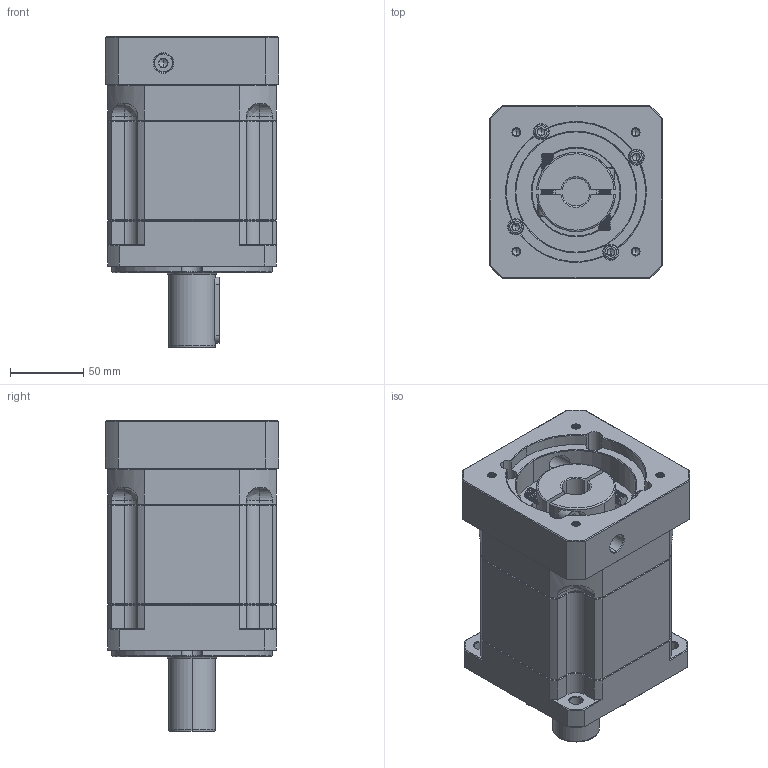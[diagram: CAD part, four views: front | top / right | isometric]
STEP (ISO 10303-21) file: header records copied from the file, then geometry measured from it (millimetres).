
FILE_DESCRIPTION (( 'STEP AP214' ), '1' );
FILE_NAME ('ZB115A-D32-L2-19-95-115-M6.step', '2023-03-02T09:00:44', ( '' ), ( 'Microsoft' ), 'SwSTEP 2.0', 'SolidWorks 2016', '' );
FILE_SCHEMA (( 'AUTOMOTIVE_DESIGN' ));
Length unit declared in the file: millimetre
Products named in the file (1): ZB115A-D32-L2-19-95-115-M6
Bounding box: 118 x 118 x 212 mm (x, y, z)
Volume: 1811901.9 mm3; surface area: 174295.4 mm2
Topology: 6 solids, 6 shells, 2105 faces, 5467 edges, 3453 vertices
Faces by surface type: plane 964, cylinder 412, cone 384, bspline 345
Entity records: 110792 total; most frequent: CARTESIAN_POINT 38887, ORIENTED_EDGE 10866, DIRECTION 8966, EDGE_CURVE 5433, VERTEX_POINT 3453, VECTOR 3362, LINE 3362, AXIS2_PLACEMENT_3D 2802
